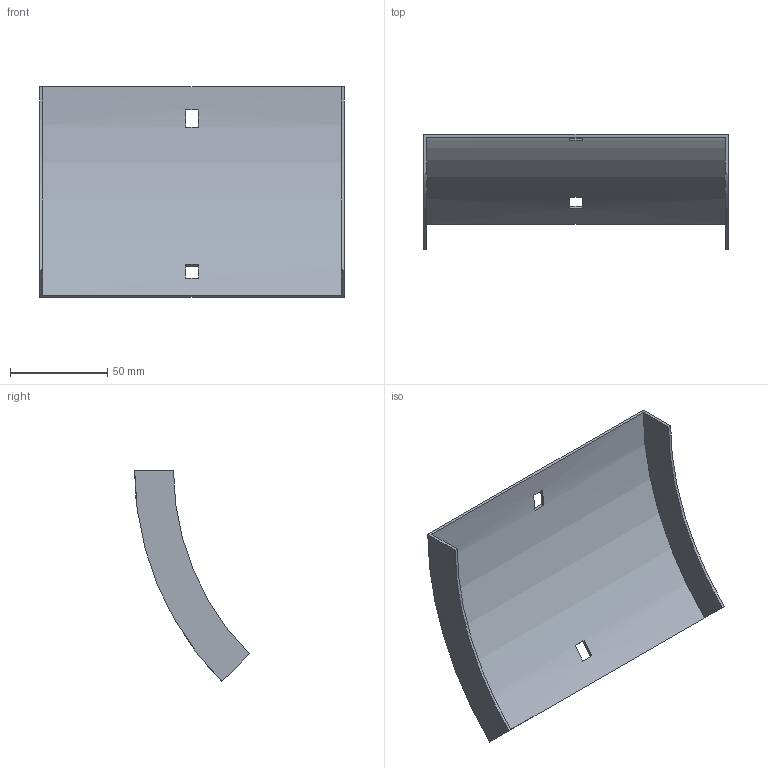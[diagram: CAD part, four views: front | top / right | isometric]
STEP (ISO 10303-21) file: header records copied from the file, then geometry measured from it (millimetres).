
FILE_DESCRIPTION (( 'STEP AP214' ), '1' );
FILE_NAME ('34N1B150.step', '2025-02-21T09:14:51', ( '' ), ( '' ), 'SwSTEP 2.0', 'SolidWorks 2023', '' );
FILE_SCHEMA (( 'AUTOMOTIVE_DESIGN' ));
Length unit declared in the file: millimetre
Products named in the file (1): 34N1B150
Bounding box: 157 x 59.1 x 108.54 mm (x, y, z)
Volume: 34298.7 mm3; surface area: 46723.5 mm2
Topology: 1 solids, 1 shells, 18 faces, 48 edges, 32 vertices
Faces by surface type: plane 14, cylinder 4
Entity records: 599 total; most frequent: DIRECTION 102, CARTESIAN_POINT 99, ORIENTED_EDGE 96, EDGE_CURVE 48, AXIS2_PLACEMENT_3D 35, VECTOR 32, VERTEX_POINT 32, LINE 32
